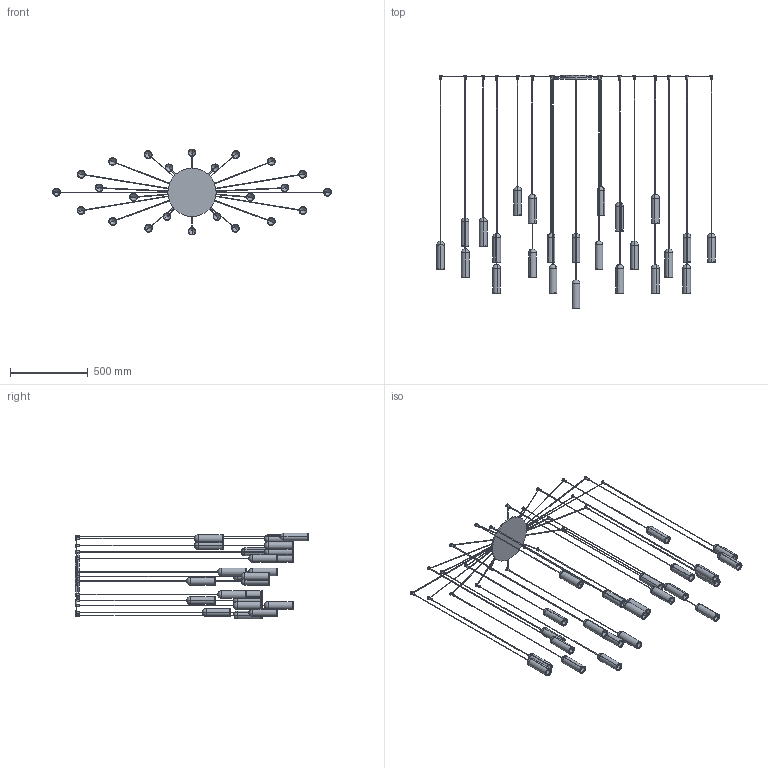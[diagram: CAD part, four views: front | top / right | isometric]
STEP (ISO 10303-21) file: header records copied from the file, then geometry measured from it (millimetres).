
FILE_DESCRIPTION (( 'STEP AP203' ), '1' );
FILE_NAME ('NANA3-00-NANUM 24 A ROSONE CENTRALE.STEP', '2024-07-31T07:26:07', ( '' ), ( '' ), 'SwSTEP 2.0', 'SolidWorks 2022', '' );
FILE_SCHEMA (( 'CONFIG_CONTROL_DESIGN' ));
Length unit declared in the file: millimetre
Products named in the file (11): NANUM_LAMPADA SINGOLA_H=2000; NANUM_LAMPADA SINGOLA_H=1600; NANUM_LAMPADA SINGOLA_H=1800; NANUM_LAMPADA SINGOLA_H=1750; NANA3-00-NANUM 24 A ROSONE CENTRALE; NANUM_LAMPADA SINGOLA_H=1900; NANUM_Rosone diam.310_24A<A macchina>; NANUM_LAMPADA SINGOLA_H=2100; NANUM_LAMPADA SINGOLA_H=1700; NANUM_LAMPADA SINGOLA_H=2050; NANUM_LAMPADA SINGOLA_H=1500
Assembly tree (25 placements, depth 2):
  NANA3-00-NANUM 24 A ROSONE CENTRALE
    NANUM_Rosone diam.310_24A<A macchina>
    NANUM_LAMPADA SINGOLA_H=1500
    NANUM_LAMPADA SINGOLA_H=1600  x5
    NANUM_LAMPADA SINGOLA_H=2050  x2
    NANUM_LAMPADA SINGOLA_H=1700  x3
    NANUM_LAMPADA SINGOLA_H=1900  x2
    NANUM_LAMPADA SINGOLA_H=1750  x3
    NANUM_LAMPADA SINGOLA_H=2100  x2
    NANUM_LAMPADA SINGOLA_H=1800  x5
    NANUM_LAMPADA SINGOLA_H=2000
Bounding box: 1790 x 1500 x 552 mm (x, y, z)
Volume: 3441393.8 mm3; surface area: 2092150.9 mm2
Topology: 72 solids, 72 shells, 912 faces, 1996 edges, 1133 vertices
Faces by surface type: cylinder 485, plane 187, cone 96, sphere 96, torus 48
Entity records: 12761 total; most frequent: CARTESIAN_POINT 2670, DIRECTION 1971, ORIENTED_EDGE 1600, AXIS2_PLACEMENT_3D 862, EDGE_CURVE 800, VERTEX_POINT 489, EDGE_LOOP 469, ADVANCED_FACE 432
